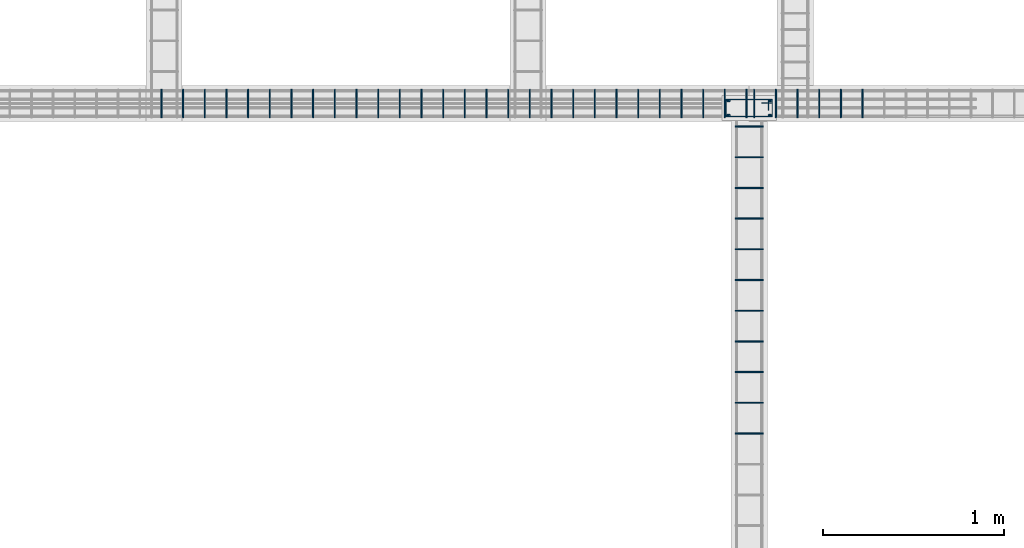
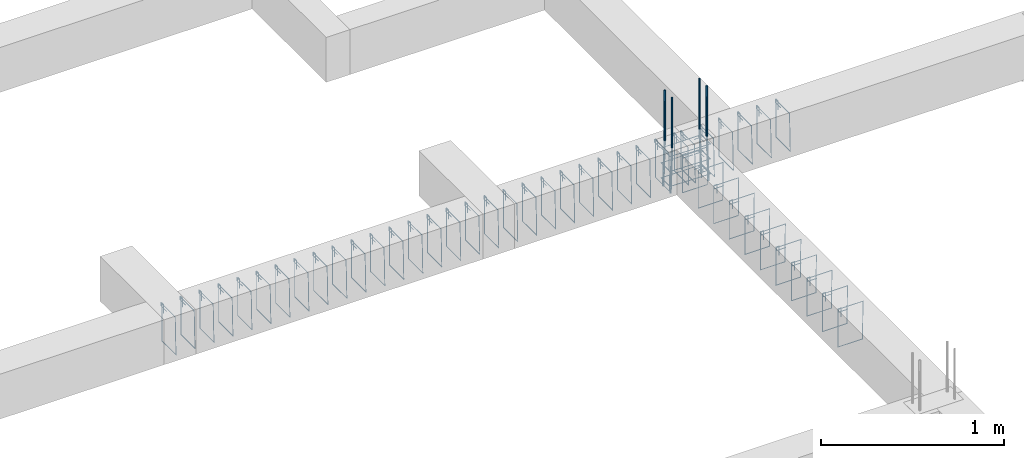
# One storey, part 88 of 150: 52 reinforcing bars.
"""IFC4 building model written with IfcOpenShell, lengths in centimetres."""

from ifc_helpers import new_model, entity, si_unit, derived_unit, frame, origin_with_axes, place, context, project, spatial, source, transform, mapped, element, save


model = new_model("IFC4")

# Units and contexts
model_context = context("Model", 3, precision=1e-05, world=origin_with_axes(), identifier="Body")
ifc_project = project(units=[si_unit("LENGTHUNIT", "METRE", prefix="CENTI"), si_unit("VOLUMEUNIT", "CUBIC_METRE"), si_unit("AREAUNIT", "SQUARE_METRE"), si_unit("POWERUNIT", "WATT"), si_unit("LUMINOUSFLUXUNIT", "LUMEN"), si_unit("ELECTRICCURRENTUNIT", "AMPERE"), si_unit("PRESSUREUNIT", "PASCAL", prefix="KILO"), si_unit("MASSUNIT", "GRAM", prefix="KILO"), si_unit("PLANEANGLEUNIT", "RADIAN"), derived_unit("VOLUMETRICFLOWRATEUNIT", [(si_unit("LENGTHUNIT", "METRE"), 3), (si_unit("TIMEUNIT", "SECOND"), -1)])], contexts=[model_context])

# Site, building, storey
site_placement = place(None, frame((-4000.0, 0.0, 0.0), z_axis=(0.0, 0.0, 1.0), x_axis=(1.0, 0.0, 0.0)))
site = spatial("IfcSite", under=ifc_project, at=site_placement, Name="PADRÃO")
building_placement = place(site_placement, frame((0.0, 0.0, -14.0)))
building = spatial("IfcBuilding", under=site, at=building_placement, Name="CRECHE PRÉ-ESCOLA TIPO 2")
placement = place(building_placement, origin_with_axes())
storey_placement = place(placement, frame((0.0, 0.0, 30.0), z_axis=(0.0, 0.0, 1.0), x_axis=(1.0, 0.0, 0.0)))
storey = spatial("IfcBuildingStorey", under=building, at=storey_placement, Name="VIGA BALDRAME", CompositionType="ELEMENT", Elevation=16.0)

# Reinforcing bars
shared_shape_1 = source(origin_with_axes(), model_context, "Body", "AdvancedSweptSolid", [
    entity("IfcSweptDiskSolid", entity("IfcCompositeCurve", [entity("IfcCompositeCurveSegment", "CONTINUOUS", True, entity("IfcPolyline", [entity("IfcCartesianPoint", [4.25, 21.75, 0.0]), entity("IfcCartesianPoint", [4.25, 27.75, 0.0])])), entity("IfcCompositeCurveSegment", "CONTINUOUS", True, entity("IfcPolyline", [entity("IfcCartesianPoint", [4.25, 27.75, 0.0]), entity("IfcCartesianPoint", [2.25, 27.75, 0.0])])), entity("IfcCompositeCurveSegment", "CONTINUOUS", True, entity("IfcPolyline", [entity("IfcCartesianPoint", [2.25, 27.75, 0.0]), entity("IfcCartesianPoint", [2.25, 2.25, 0.0])])), entity("IfcCompositeCurveSegment", "CONTINUOUS", True, entity("IfcPolyline", [entity("IfcCartesianPoint", [2.25, 2.25, 0.0]), entity("IfcCartesianPoint", [11.75, 2.25, 0.0])])), entity("IfcCompositeCurveSegment", "CONTINUOUS", True, entity("IfcPolyline", [entity("IfcCartesianPoint", [11.75, 2.25, 0.0]), entity("IfcCartesianPoint", [11.75, 27.75, -0.5])])), entity("IfcCompositeCurveSegment", "CONTINUOUS", True, entity("IfcPolyline", [entity("IfcCartesianPoint", [11.75, 27.75, -0.5]), entity("IfcCartesianPoint", [2.25, 27.75, -0.5])])), entity("IfcCompositeCurveSegment", "CONTINUOUS", True, entity("IfcPolyline", [entity("IfcCartesianPoint", [2.25, 27.75, -0.5]), entity("IfcCartesianPoint", [2.25, 25.75, -0.5])])), entity("IfcCompositeCurveSegment", "CONTINUOUS", True, entity("IfcPolyline", [entity("IfcCartesianPoint", [2.25, 25.75, -0.5]), entity("IfcCartesianPoint", [8.25, 25.75, -0.5])]))], False), 0.25),
])
for number, where, z_axis, x_axis, name in (
    (1, (3123.5, 3204.52, -5.0), (0.0, 0.0, 1.0), (0.0, -1.0, 0.0), "P55 - Estribo"),
    (2, (3123.5, 3204.52, -15.0), (0.0, 0.0, 1.0), (0.0, -1.0, 0.0), "P55 - Estribo"),
    (3, (3123.5, 3204.52, -25.0), (0.0, 0.0, 1.0), (0.0, -1.0, 0.0), "P55 - Estribo"),
):
    element("IfcReinforcingBar", number, at=place(storey_placement, frame(where, z_axis=z_axis, x_axis=x_axis)), inside=storey, Name=name, BarLength=0.0, CrossSectionArea=1.9634954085e-05, NominalDiameter=0.5, PredefinedType="MAIN", context=model_context, shape_type="MappedRepresentation", body=[
        mapped(shared_shape_1, transform((0.0, 0.0, 0.0), scale=1.0)),
    ])
shared_shape_2 = source(origin_with_axes(), model_context, "Body", "AdvancedSweptSolid", [
    entity("IfcSweptDiskSolid", entity("IfcCompositeCurve", [entity("IfcCompositeCurveSegment", "CONTINUOUS", True, entity("IfcPolyline", [entity("IfcCartesianPoint", [2.0, -6.0, 0.0]), entity("IfcCartesianPoint", [2.0, 0.0, 0.0])])), entity("IfcCompositeCurveSegment", "CONTINUOUS", True, entity("IfcPolyline", [entity("IfcCartesianPoint", [2.0, 0.0, 0.0]), entity("IfcCartesianPoint", [0.0, 0.0, 0.0])])), entity("IfcCompositeCurveSegment", "CONTINUOUS", True, entity("IfcPolyline", [entity("IfcCartesianPoint", [0.0, 0.0, 0.0]), entity("IfcCartesianPoint", [0.0, -25.5, 0.0])])), entity("IfcCompositeCurveSegment", "CONTINUOUS", True, entity("IfcPolyline", [entity("IfcCartesianPoint", [0.0, -25.5, 0.0]), entity("IfcCartesianPoint", [15.5, -25.5, 0.0])])), entity("IfcCompositeCurveSegment", "CONTINUOUS", True, entity("IfcPolyline", [entity("IfcCartesianPoint", [15.5, -25.5, 0.0]), entity("IfcCartesianPoint", [15.5, 0.0, 0.5])])), entity("IfcCompositeCurveSegment", "CONTINUOUS", True, entity("IfcPolyline", [entity("IfcCartesianPoint", [15.5, 0.0, 0.5]), entity("IfcCartesianPoint", [0.0, 0.0, 0.5])])), entity("IfcCompositeCurveSegment", "CONTINUOUS", True, entity("IfcPolyline", [entity("IfcCartesianPoint", [0.0, 0.0, 0.5]), entity("IfcCartesianPoint", [0.0, -2.0, 0.5])])), entity("IfcCompositeCurveSegment", "CONTINUOUS", True, entity("IfcPolyline", [entity("IfcCartesianPoint", [0.0, -2.0, 0.5]), entity("IfcCartesianPoint", [6.0, -2.0, 0.5])]))], False), 0.25),
])
for number, where, z_axis, x_axis, name in (
    (4, (2861.25, 3207.77, -2.25), (-1.0, 0.0, 0.0), (0.0, -1.0, 0.0), "V114 - Estribo"),
    (5, (2849.25, 3207.77, -2.25), (-1.0, 0.0, 0.0), (0.0, -1.0, 0.0), "V114 - Estribo"),
    (6, (2837.25, 3207.77, -2.25), (-1.0, 0.0, 0.0), (0.0, -1.0, 0.0), "V114 - Estribo"),
    (7, (2825.25, 3207.77, -2.25), (-1.0, 0.0, 0.0), (0.0, -1.0, 0.0), "V114 - Estribo"),
    (8, (2813.25, 3207.77, -2.25), (-1.0, 0.0, 0.0), (0.0, -1.0, 0.0), "V114 - Estribo"),
    (9, (3137.25, 3207.77, -2.25), (-1.0, 0.0, 0.0), (0.0, -1.0, 0.0), "V114 - Estribo"),
    (10, (3125.25, 3207.77, -2.25), (-1.0, 0.0, 0.0), (0.0, -1.0, 0.0), "V114 - Estribo"),
    (11, (3113.25, 3207.77, -2.25), (-1.0, 0.0, 0.0), (0.0, -1.0, 0.0), "V114 - Estribo"),
    (12, (3101.25, 3207.77, -2.25), (-1.0, 0.0, 0.0), (0.0, -1.0, 0.0), "V114 - Estribo"),
    (13, (3089.25, 3207.77, -2.25), (-1.0, 0.0, 0.0), (0.0, -1.0, 0.0), "V114 - Estribo"),
    (14, (3077.25, 3207.77, -2.25), (-1.0, 0.0, 0.0), (0.0, -1.0, 0.0), "V114 - Estribo"),
    (15, (3065.25, 3207.77, -2.25), (-1.0, 0.0, 0.0), (0.0, -1.0, 0.0), "V114 - Estribo"),
    (16, (3053.25, 3207.77, -2.25), (-1.0, 0.0, 0.0), (0.0, -1.0, 0.0), "V114 - Estribo"),
    (17, (3041.25, 3207.77, -2.25), (-1.0, 0.0, 0.0), (0.0, -1.0, 0.0), "V114 - Estribo"),
    (18, (3029.25, 3207.77, -2.25), (-1.0, 0.0, 0.0), (0.0, -1.0, 0.0), "V114 - Estribo"),
    (19, (3017.25, 3207.77, -2.25), (-1.0, 0.0, 0.0), (0.0, -1.0, 0.0), "V114 - Estribo"),
    (20, (3005.25, 3207.77, -2.25), (-1.0, 0.0, 0.0), (0.0, -1.0, 0.0), "V114 - Estribo"),
    (21, (2993.25, 3207.77, -2.25), (-1.0, 0.0, 0.0), (0.0, -1.0, 0.0), "V114 - Estribo"),
    (22, (2981.25, 3207.77, -2.25), (-1.0, 0.0, 0.0), (0.0, -1.0, 0.0), "V114 - Estribo"),
    (23, (2969.25, 3207.77, -2.25), (-1.0, 0.0, 0.0), (0.0, -1.0, 0.0), "V114 - Estribo"),
    (24, (2957.25, 3207.77, -2.25), (-1.0, 0.0, 0.0), (0.0, -1.0, 0.0), "V114 - Estribo"),
    (25, (2945.25, 3207.77, -2.25), (-1.0, 0.0, 0.0), (0.0, -1.0, 0.0), "V114 - Estribo"),
    (26, (2933.25, 3207.77, -2.25), (-1.0, 0.0, 0.0), (0.0, -1.0, 0.0), "V114 - Estribo"),
    (27, (2921.25, 3207.77, -2.25), (-1.0, 0.0, 0.0), (0.0, -1.0, 0.0), "V114 - Estribo"),
    (28, (2909.25, 3207.77, -2.25), (-1.0, 0.0, 0.0), (0.0, -1.0, 0.0), "V114 - Estribo"),
    (29, (2897.25, 3207.77, -2.25), (-1.0, 0.0, 0.0), (0.0, -1.0, 0.0), "V114 - Estribo"),
    (30, (2885.25, 3207.77, -2.25), (-1.0, 0.0, 0.0), (0.0, -1.0, 0.0), "V114 - Estribo"),
    (31, (2873.25, 3207.77, -2.25), (-1.0, 0.0, 0.0), (0.0, -1.0, 0.0), "V114 - Estribo"),
):
    element("IfcReinforcingBar", number, at=place(storey_placement, frame(where, z_axis=z_axis, x_axis=x_axis)), inside=storey, Name=name, BarLength=0.0, CrossSectionArea=1.9634954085e-05, NominalDiameter=0.5, PredefinedType="MAIN", context=model_context, shape_type="MappedRepresentation", body=[
        mapped(shared_shape_2, transform((0.0, 0.0, 0.0), scale=1.0)),
    ])
shared_shape_3 = source(origin_with_axes(), model_context, "Body", "AdvancedSweptSolid", [
    entity("IfcSweptDiskSolid", entity("IfcCompositeCurve", [entity("IfcCompositeCurveSegment", "CONTINUOUS", True, entity("IfcPolyline", [entity("IfcCartesianPoint", [2.0, -6.0, 0.0]), entity("IfcCartesianPoint", [2.0, 0.0, 0.0])])), entity("IfcCompositeCurveSegment", "CONTINUOUS", True, entity("IfcPolyline", [entity("IfcCartesianPoint", [2.0, 0.0, 0.0]), entity("IfcCartesianPoint", [0.0, 0.0, 0.0])])), entity("IfcCompositeCurveSegment", "CONTINUOUS", True, entity("IfcPolyline", [entity("IfcCartesianPoint", [0.0, 0.0, 0.0]), entity("IfcCartesianPoint", [0.0, -25.5, 0.0])])), entity("IfcCompositeCurveSegment", "CONTINUOUS", True, entity("IfcPolyline", [entity("IfcCartesianPoint", [0.0, -25.5, 0.0]), entity("IfcCartesianPoint", [15.5, -25.5, 0.0])])), entity("IfcCompositeCurveSegment", "CONTINUOUS", True, entity("IfcPolyline", [entity("IfcCartesianPoint", [15.5, -25.5, 0.0]), entity("IfcCartesianPoint", [15.5, 0.0, 0.5])])), entity("IfcCompositeCurveSegment", "CONTINUOUS", True, entity("IfcPolyline", [entity("IfcCartesianPoint", [15.5, 0.0, 0.5]), entity("IfcCartesianPoint", [0.0, 0.0, 0.5])])), entity("IfcCompositeCurveSegment", "CONTINUOUS", True, entity("IfcPolyline", [entity("IfcCartesianPoint", [0.0, 0.0, 0.5]), entity("IfcCartesianPoint", [0.0, -2.0, 0.5])])), entity("IfcCompositeCurveSegment", "CONTINUOUS", True, entity("IfcPolyline", [entity("IfcCartesianPoint", [0.0, -2.0, 0.5]), entity("IfcCartesianPoint", [6.0, -2.0, 0.5])]))], False), 0.25),
])
for number, where, z_axis, x_axis, name in (
    (32, (3201.5, 3207.77, -2.25), (-1.0, 0.0, 0.0), (0.0, -1.0, 0.0), "V114 - Estribo"),
    (33, (3189.5, 3207.77, -2.25), (-1.0, 0.0, 0.0), (0.0, -1.0, 0.0), "V114 - Estribo"),
    (34, (3177.5, 3207.77, -2.25), (-1.0, 0.0, 0.0), (0.0, -1.0, 0.0), "V114 - Estribo"),
    (35, (3165.5, 3207.77, -2.25), (-1.0, 0.0, 0.0), (0.0, -1.0, 0.0), "V114 - Estribo"),
    (36, (3153.5, 3207.77, -2.25), (-1.0, 0.0, 0.0), (0.0, -1.0, 0.0), "V114 - Estribo"),
    (37, (3141.5, 3207.77, -2.25), (-1.0, 0.0, 0.0), (0.0, -1.0, 0.0), "V114 - Estribo"),
):
    element("IfcReinforcingBar", number, at=place(storey_placement, frame(where, z_axis=z_axis, x_axis=x_axis)), inside=storey, Name=name, BarLength=0.0, CrossSectionArea=1.9634954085e-05, NominalDiameter=0.5, PredefinedType="MAIN", context=model_context, shape_type="MappedRepresentation", body=[
        mapped(shared_shape_3, transform((0.0, 0.0, 0.0), scale=1.0)),
    ])
shared_shape_4 = source(origin_with_axes(), model_context, "Body", "AdvancedSweptSolid", [
    entity("IfcSweptDiskSolid", entity("IfcCompositeCurve", [entity("IfcCompositeCurveSegment", "CONTINUOUS", True, entity("IfcPolyline", [entity("IfcCartesianPoint", [2.0, -6.0, 0.0]), entity("IfcCartesianPoint", [2.0, 0.0, 0.0])])), entity("IfcCompositeCurveSegment", "CONTINUOUS", True, entity("IfcPolyline", [entity("IfcCartesianPoint", [2.0, 0.0, 0.0]), entity("IfcCartesianPoint", [0.0, 0.0, 0.0])])), entity("IfcCompositeCurveSegment", "CONTINUOUS", True, entity("IfcPolyline", [entity("IfcCartesianPoint", [0.0, 0.0, 0.0]), entity("IfcCartesianPoint", [0.0, -25.5, 0.0])])), entity("IfcCompositeCurveSegment", "CONTINUOUS", True, entity("IfcPolyline", [entity("IfcCartesianPoint", [0.0, -25.5, 0.0]), entity("IfcCartesianPoint", [15.5, -25.5, 0.0])])), entity("IfcCompositeCurveSegment", "CONTINUOUS", True, entity("IfcPolyline", [entity("IfcCartesianPoint", [15.5, -25.5, 0.0]), entity("IfcCartesianPoint", [15.5, 0.0, 0.5])])), entity("IfcCompositeCurveSegment", "CONTINUOUS", True, entity("IfcPolyline", [entity("IfcCartesianPoint", [15.5, 0.0, 0.5]), entity("IfcCartesianPoint", [0.0, 0.0, 0.5])])), entity("IfcCompositeCurveSegment", "CONTINUOUS", True, entity("IfcPolyline", [entity("IfcCartesianPoint", [0.0, 0.0, 0.5]), entity("IfcCartesianPoint", [0.0, -2.0, 0.5])])), entity("IfcCompositeCurveSegment", "CONTINUOUS", True, entity("IfcPolyline", [entity("IfcCartesianPoint", [0.0, -2.0, 0.5]), entity("IfcCartesianPoint", [6.0, -2.0, 0.5])]))], False), 0.25),
])
for number, where, z_axis, x_axis, name in (
    (38, (3130.75, 3170.52, -2.25), (0.0, -1.0, 0.0), (1.0, 0.0, 0.0), "V219 - Estribo"),
    (39, (3130.75, 3187.52, -2.25), (0.0, -1.0, 0.0), (1.0, 0.0, 0.0), "V219 - Estribo"),
    (40, (3130.75, 3034.52, -2.25), (0.0, -1.0, 0.0), (1.0, 0.0, 0.0), "V219 - Estribo"),
    (41, (3130.75, 3017.52, -2.25), (0.0, -1.0, 0.0), (1.0, 0.0, 0.0), "V219 - Estribo"),
    (42, (3130.75, 3051.52, -2.25), (0.0, -1.0, 0.0), (1.0, 0.0, 0.0), "V219 - Estribo"),
    (43, (3130.75, 3068.52, -2.25), (0.0, -1.0, 0.0), (1.0, 0.0, 0.0), "V219 - Estribo"),
    (44, (3130.75, 3085.52, -2.25), (0.0, -1.0, 0.0), (1.0, 0.0, 0.0), "V219 - Estribo"),
    (45, (3130.75, 3119.52, -2.25), (0.0, -1.0, 0.0), (1.0, 0.0, 0.0), "V219 - Estribo"),
    (46, (3130.75, 3136.52, -2.25), (0.0, -1.0, 0.0), (1.0, 0.0, 0.0), "V219 - Estribo"),
    (47, (3130.75, 3153.52, -2.25), (0.0, -1.0, 0.0), (1.0, 0.0, 0.0), "V219 - Estribo"),
    (48, (3130.75, 3102.52, -2.25), (0.0, -1.0, 0.0), (1.0, 0.0, 0.0), "V219 - Estribo"),
):
    element("IfcReinforcingBar", number, at=place(storey_placement, frame(where, z_axis=z_axis, x_axis=x_axis)), inside=storey, Name=name, BarLength=0.0, CrossSectionArea=1.9634954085e-05, NominalDiameter=0.5, PredefinedType="MAIN", context=model_context, shape_type="MappedRepresentation", body=[
        mapped(shared_shape_4, transform((0.0, 0.0, 0.0), scale=1.0)),
    ])
for number, where, z_axis, x_axis, name in (
    (49, (3127.00013877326, 3193.52, 33.3573001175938), (0.0, 0.0, 1.0), (1.0, 0.0, 0.0), "P55 - Longitudinal"),
    (50, (3127.00013877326, 3201.52, 33.3573001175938), (0.0, 0.0, 1.0), (1.0, 0.0, 0.0), "P55 - Longitudinal"),
):
    element("IfcReinforcingBar", number, at=place(storey_placement, frame(where, z_axis=z_axis, x_axis=x_axis)), inside=storey, Name=name, BarLength=0.0, CrossSectionArea=7.853981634e-05, NominalDiameter=1.0, PredefinedType="MAIN", context=model_context, shape_type="AdvancedSweptSolid", body=[
        entity("IfcSweptDiskSolid", entity("IfcCompositeCurve", [entity("IfcCompositeCurveSegment", "CONTINUOUS", True, entity("IfcPolyline", [entity("IfcCartesianPoint", [-0.500138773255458, 0.0, -63.3573001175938]), entity("IfcCartesianPoint", [0.499861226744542, 0.0, -33.3573001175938])])), entity("IfcCompositeCurveSegment", "CONTINUOUS", True, entity("IfcPolyline", [entity("IfcCartesianPoint", [0.499861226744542, 0.0, -33.3573001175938]), entity("IfcCartesianPoint", [0.499861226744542, 0.0, 0.0])]))], False), 0.5),
    ])
for number, where, z_axis, x_axis, name in (
    (51, (3149.99986122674, 3193.52, 33.3573001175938), (0.0, 0.0, 1.0), (1.0, 0.0, 0.0), "P55 - Longitudinal"),
    (52, (3149.99986122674, 3201.52, 33.3573001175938), (0.0, 0.0, 1.0), (1.0, 0.0, 0.0), "P55 - Longitudinal"),
):
    element("IfcReinforcingBar", number, at=place(storey_placement, frame(where, z_axis=z_axis, x_axis=x_axis)), inside=storey, Name=name, BarLength=0.0, CrossSectionArea=7.853981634e-05, NominalDiameter=1.0, PredefinedType="MAIN", context=model_context, shape_type="AdvancedSweptSolid", body=[
        entity("IfcSweptDiskSolid", entity("IfcCompositeCurve", [entity("IfcCompositeCurveSegment", "CONTINUOUS", True, entity("IfcPolyline", [entity("IfcCartesianPoint", [0.500138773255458, 0.0, -63.3573001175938]), entity("IfcCartesianPoint", [-0.499861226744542, 0.0, -33.3573001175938])])), entity("IfcCompositeCurveSegment", "CONTINUOUS", True, entity("IfcPolyline", [entity("IfcCartesianPoint", [-0.499861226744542, 0.0, -33.3573001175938]), entity("IfcCartesianPoint", [-0.499861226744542, 0.0, 0.0])]))], False), 0.5),
    ])

save(model, "model.ifc")
